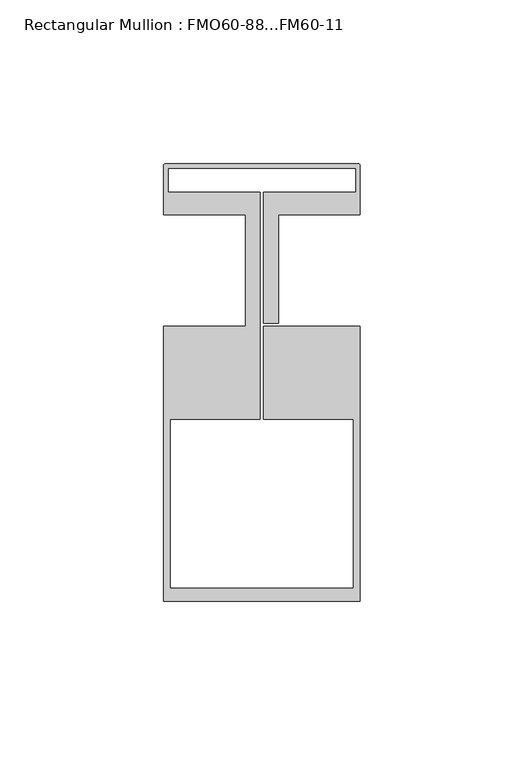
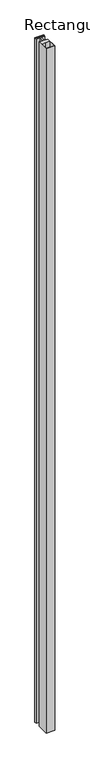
"""IFC4 building model written with IfcOpenShell, lengths in millimetres: member geometry, Rectangular Mullion : FMO60-88...FM60-11."""

from ifc_helpers import new_model, si_unit, point, frame, frame_2d, origin, place, context, project, spatial, polyline, circle_curve, trimmed, segment, composite_curve, outline, extrude, source, transform, mapped, element, save


def rectangular_mullion_fmo60_88_fm60_11_5c2764d4(model_context):
    return source(origin(), model_context, "Body", "SweptSolid", [
        extrude(outline(composite_curve([segment(trimmed(circle_curve(frame_2d((29.5, 32.1117899)), 0.5), [point((29.5, 32.6117899))], [point((30.0, 32.1117899))], False, "CARTESIAN"), True, "CONTINUOUS"), segment(polyline([(30.0, 32.1117899), (30.0, 17.1), (5.0, 17.1), (5.0, -16.1), (0.5, -16.1), (0.5, 23.9476589), (28.7, 23.9476589), (28.7, 31.3117899), (-28.7, 31.3117899), (-28.7, 23.9476589), (-0.5, 23.9476589), (-0.5, -45.4034642), (-28.0, -45.4034642), (-28.0, -96.909342), (28.0, -96.909342), (28.0, -45.4034642), (0.5, -45.4034642), (0.5, -16.9), (30.0, -16.9), (30.0, -100.909342), (-30.0, -100.909342), (-30.0, -16.9), (-5.0, -16.9), (-5.0, 17.1), (-30.0, 17.1), (-30.0, 32.1117899)]), True, "CONTINUOUS"), segment(trimmed(circle_curve(frame_2d((-29.5, 32.1117899)), 0.5), [point((-30.0, 32.1117899))], [point((-29.5, 32.6117899))], False, "CARTESIAN"), True, "CONTINUOUS"), segment(polyline([(-29.5, 32.6117899), (29.5, 32.6117899)]), True, "CONTINUOUS")], self_intersect=False)), frame((0.0, 0.0, -5000.0), z_axis=(0.0, 0.0, 1.0), x_axis=(1.0, 0.0, 0.0)), (0.0, 0.0, 1.0), 5000.0),
    ])


if __name__ == "__main__":
    model = new_model("IFC4")
    model_context = context("Model", 3, world=origin())
    ifc_project = project(units=[si_unit("LENGTHUNIT", "METRE", prefix="MILLI")], contexts=[model_context])
    site = spatial("IfcSite", under=ifc_project)
    building = spatial("IfcBuilding", under=site)
    placement = place(None, origin())
    rectangular_mullion_fmo60_88_fm60_11_shape = rectangular_mullion_fmo60_88_fm60_11_5c2764d4(model_context)
    element("IfcMember", 1, ObjectType="Rectangular Mullion : FMO60-88...FM60-11", at=placement, inside=building, context=model_context, shape_type="MappedRepresentation", body=[
        mapped(rectangular_mullion_fmo60_88_fm60_11_shape, transform((0.0, 0.0, 0.0), x_axis=(1.0, 0.0, 0.0), y_axis=(0.0, 1.0, 0.0), z_axis=(0.0, 0.0, 1.0))),
    ])
    save(model, "model.ifc")
